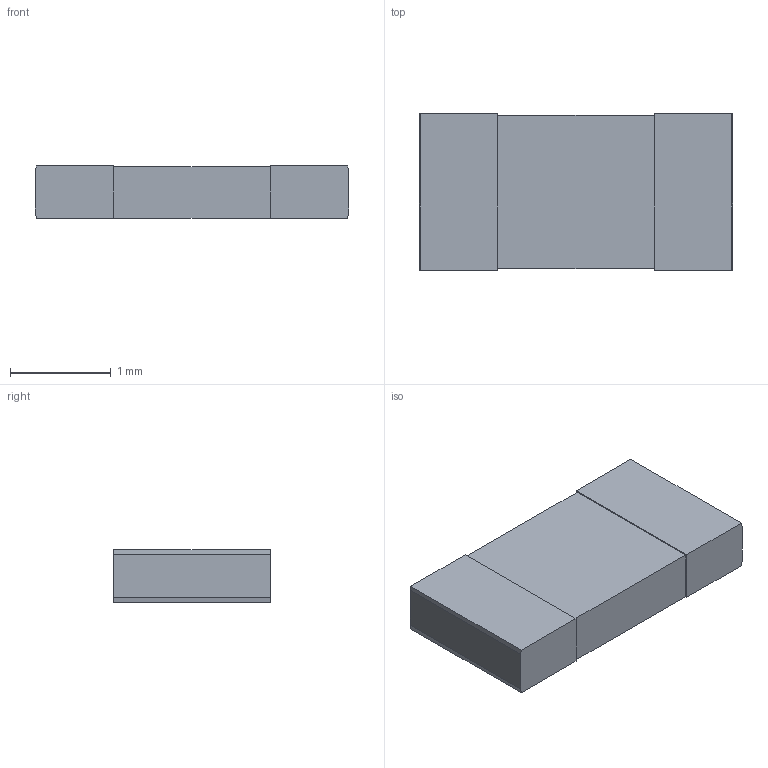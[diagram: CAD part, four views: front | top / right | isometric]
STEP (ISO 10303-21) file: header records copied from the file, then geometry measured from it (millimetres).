
FILE_DESCRIPTION(('FreeCAD Model'),'2;1');
FILE_NAME('Open CASCADE Shape Model','2021-06-29T03:05:28',('Author'),( ''),'Open CASCADE STEP processor 7.5','FreeCAD','Unknown');
FILE_SCHEMA(('AUTOMOTIVE_DESIGN { 1 0 10303 214 1 1 1 1 }'));
Length unit declared in the file: millimetre
Products named in the file (1): intersection
Bounding box: 3.11 x 1.55 x 0.52 mm (x, y, z)
Volume: 2.5 mm3; surface area: 14.4 mm2
Topology: 1 solids, 1 shells, 22 faces, 56 edges, 36 vertices
Faces by surface type: bspline 16, plane 6
Entity records: 1416 total; most frequent: CARTESIAN_POINT 425, B_SPLINE_CURVE_WITH_KNOTS 144, ORIENTED_EDGE 112, PCURVE 112, DEFINITIONAL_REPRESENTATION 112, EDGE_CURVE 56, SURFACE_CURVE 56, DIRECTION 38
